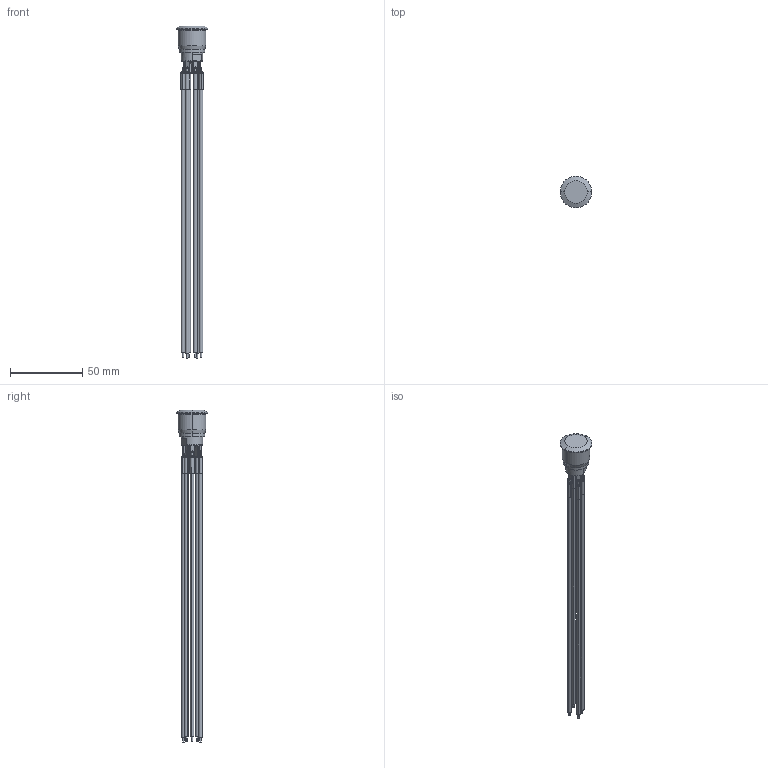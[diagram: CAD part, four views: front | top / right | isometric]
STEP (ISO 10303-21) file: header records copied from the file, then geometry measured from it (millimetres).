
FILE_DESCRIPTION((''),'2;1');
FILE_NAME('AV9__2F1020___K','2015-07-09T',('mdamaggio'),(''),'CREO PARAMETRIC BY PTC INC, 2014440','CREO PARAMETRIC BY PTC INC, 2014440','');
FILE_SCHEMA(('CONFIG_CONTROL_DESIGN'));
Length unit declared in the file: millimetre
Products named in the file (1): AV9__2F1020___K
Bounding box: 22 x 22 x 230 mm (x, y, z)
Surface area: 13320 mm2 (no closed solid volume)
Topology: 0 solids, 29 shells, 342 faces, 960 edges, 612 vertices
Faces by surface type: bspline 134, cylinder 86, plane 66, torus 30, cone 16, sphere 10
Entity records: 17331 total; most frequent: CARTESIAN_POINT 9512, ORIENTED_EDGE 1572, DIRECTION 1512, EDGE_CURVE 960, VERTEX_POINT 612, AXIS2_PLACEMENT_3D 606, CIRCLE 398, EDGE_LOOP 342
